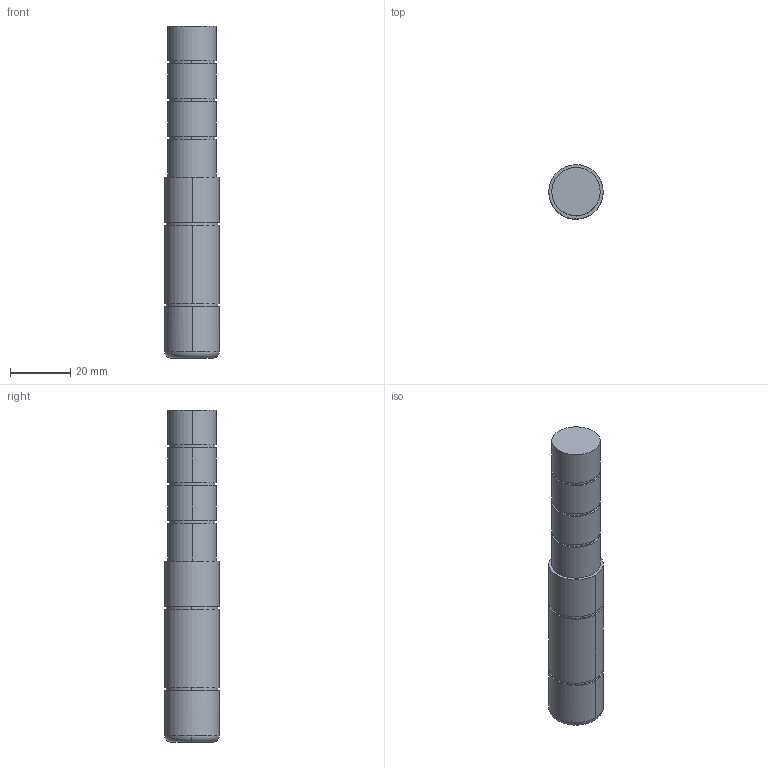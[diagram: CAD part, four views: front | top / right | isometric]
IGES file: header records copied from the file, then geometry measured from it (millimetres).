
Start section: 3D InterOp IGES (Version 24 0 1), Spatial Corp. Copyright (c) 1999-2007.
Global section: file name: embout tube grand.igs; native system: Spatial Corp.; preprocessor: 3D InterOp ACIS/IGES; author: Noname; organization: Noname; date: 20160209.175432; units: millimetre
Bounding box: 18 x 18 x 109.87 mm (x, y, z)
Volume: 25115.1 mm3; surface area: 6598 mm2
Topology: 1 solids, 1 shells, 39 faces, 79 edges, 53 vertices
Faces by surface type: cylinder 24, plane 13, torus 2
